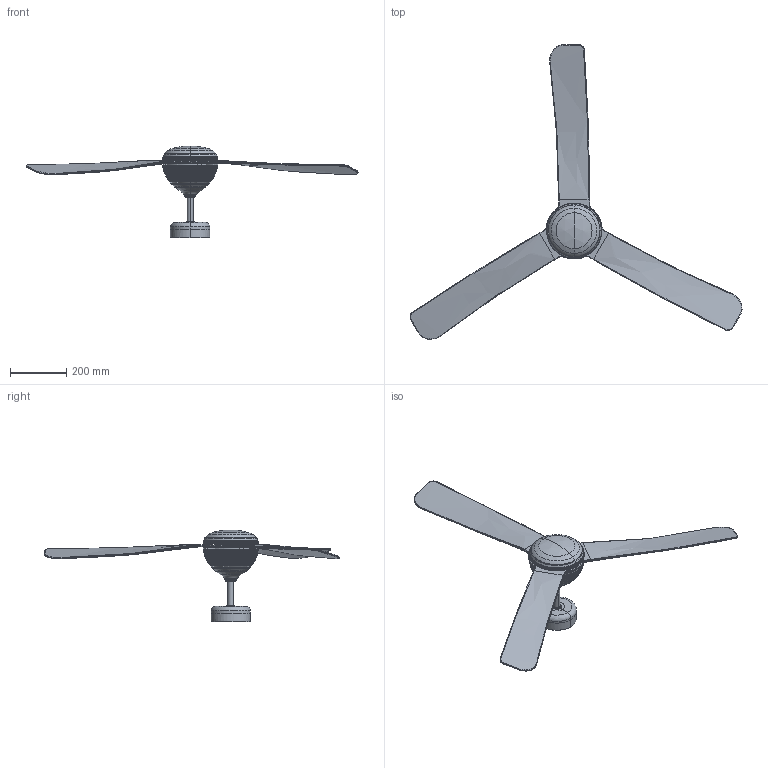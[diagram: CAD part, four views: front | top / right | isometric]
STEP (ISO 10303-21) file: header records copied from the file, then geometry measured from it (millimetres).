
FILE_DESCRIPTION(/* description */ (''),/* implementation_level */ '2;1');
FILE_NAME(/* name */ 'C:\Users\FrancoSartori\Documents\FARO\01_En Proceso\00_GRID\03_Publicación\33341.stp',/* time_stamp */ '2021-06-14T11:04:32+02:00',/* author */ ('FrancoSartori'),/* organization */ (''),/* preprocessor_version */ 'ST-DEVELOPER v18.1',/* originating_system */ 'AutoCAD Mechanical',/* authorisation */ '');
FILE_SCHEMA (('AUTOMOTIVE_DESIGN { 1 0 10303 214 3 1 1 }'));
Products named in the file (2): Product; 33341_ 33345_ 33341-2_ 33341WP_ 33341WP-2_ 33345-2_ 33345WP_ 33345WP-
2_ - fan-478428-Export
Assembly tree (1 placements, depth 2):
  Product
    33341_ 33345_ 33341-2_ 33341WP_ 33341WP-2_ 33345-2_ 33345WP_ 33345WP-
2_ - fan-478428-Export
Bounding box: 1178.2 x 1045.07 x 325.95 mm (x, y, z)
Volume: 4651190.4 mm3; surface area: 835125.3 mm2
Topology: 8 solids, 8 shells, 1486 faces, 4025 edges, 2562 vertices
Faces by surface type: plane 576, cone 362, bspline 297, cylinder 205, torus 44, sphere 2
Entity records: 57567 total; most frequent: CARTESIAN_POINT 20640, ORIENTED_EDGE 8050, DIRECTION 7738, EDGE_CURVE 4025, AXIS2_PLACEMENT_3D 3025, VERTEX_POINT 2562, CIRCLE 1830, LINE 1688
